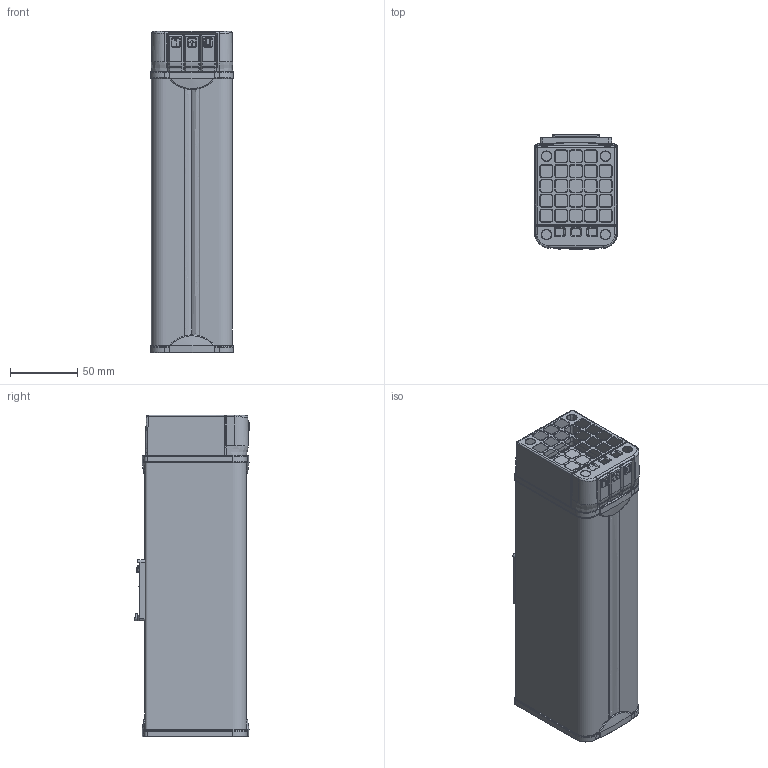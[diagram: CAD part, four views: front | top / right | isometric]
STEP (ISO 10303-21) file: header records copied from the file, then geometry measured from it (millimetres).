
FILE_DESCRIPTION(/* description */ (''),/* implementation_level */ '2;1');
FILE_NAME(/* name */ 'HTM150',/* time_stamp */ '2016-05-19T15:20:35+02:00',/* author */ (''),/* organization */ (''),/* preprocessor_version */ 'ST-DEVELOPER v10',/* originating_system */ '',/* authorisation */ '');
FILE_SCHEMA (('CONFIG_CONTROL_DESIGN'));
Length unit declared in the file: millimetre
Products named in the file (4): 1; 2; 3; 4
Assembly tree (4 placements, depth 2):
  1
    2
    3  x2
    4
Bounding box: 61.5 x 85.15 x 238.2 mm (x, y, z)
Volume: 883193.3 mm3; surface area: 88670.6 mm2
Topology: 5 solids, 7 shells, 1261 faces, 3357 edges, 2109 vertices
Faces by surface type: bspline 985, plane 276
Entity records: 40191 total; most frequent: CARTESIAN_POINT 21905, ORIENTED_EDGE 6154, EDGE_CURVE 3331, VERTEX_POINT 2099, B_SPLINE_CURVE_WITH_KNOTS 1549, EDGE_LOOP 1328, ADVANCED_FACE 1252, FACE_OUTER_BOUND 1252
